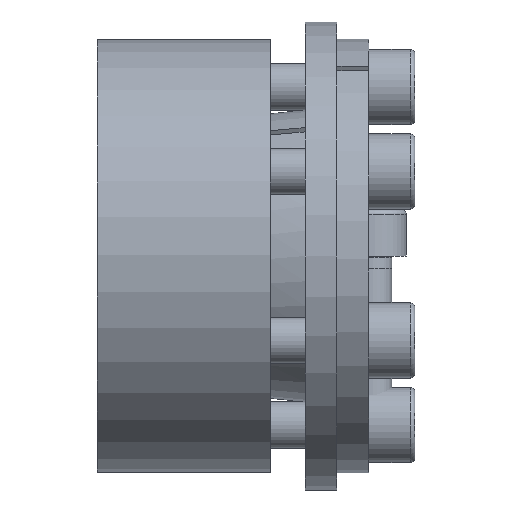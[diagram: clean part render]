
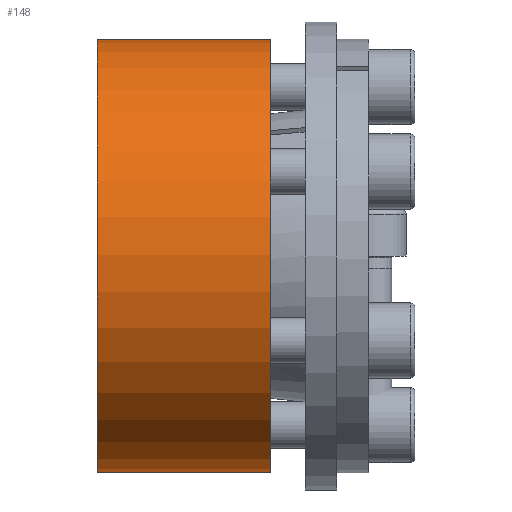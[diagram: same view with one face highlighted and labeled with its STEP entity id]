
A CAD part, left-side view. The second image highlights one B-rep face of the part: STEP entity #148.
In plain terms, the highlighted cylindrical face has radius 37.5 mm (diameter 75 mm), a partial arc.
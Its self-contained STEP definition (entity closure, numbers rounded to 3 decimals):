
#148 = ADVANCED_FACE( '', ( #320 ), #321, .T. );
#320 = FACE_OUTER_BOUND( '', #490, .T. );
#321 = CYLINDRICAL_SURFACE( '', #491, 37.5 );
#490 = EDGE_LOOP( '', ( #858, #859, #860, #861 ) );
#491 = AXIS2_PLACEMENT_3D( '', #862, #863, #864 );
#858 = ORIENTED_EDGE( '', *, *, #942, .F. );
#859 = ORIENTED_EDGE( '', *, *, #1049, .T. );
#860 = ORIENTED_EDGE( '', *, *, #1040, .T. );
#861 = ORIENTED_EDGE( '', *, *, #927, .F. );
#862 = CARTESIAN_POINT( '', ( 0., -60., 0. ) );
#863 = DIRECTION( '', ( 0., 1., 0. ) );
#864 = DIRECTION( '', ( 0., 0., -1. ) );
#927 = EDGE_CURVE( '', #1115, #1116, #1117, .F. );
#942 = EDGE_CURVE( '', #1143, #1115, #1145, .T. );
#1040 = EDGE_CURVE( '', #1292, #1116, #1293, .T. );
#1049 = EDGE_CURVE( '', #1143, #1292, #1302, .F. );
#1115 = VERTEX_POINT( '', #1452 );
#1116 = VERTEX_POINT( '', #1453 );
#1117 = LINE( '', #1454, #1455 );
#1143 = VERTEX_POINT( '', #1489 );
#1145 = CIRCLE( '', #1492, 37.5 );
#1292 = VERTEX_POINT( '', #1676 );
#1293 = CIRCLE( '', #1677, 37.5 );
#1302 = LINE( '', #1688, #1689 );
#1452 = CARTESIAN_POINT( '', ( 18.097, 17., -32.844 ) );
#1453 = CARTESIAN_POINT( '', ( 18.097, 47., -32.844 ) );
#1454 = CARTESIAN_POINT( '', ( 18.097, -60., -32.844 ) );
#1455 = VECTOR( '', #1728, 1000. );
#1489 = CARTESIAN_POINT( '', ( 19.396, 17., -32.094 ) );
#1492 = AXIS2_PLACEMENT_3D( '', #1753, #1754, #1755 );
#1676 = CARTESIAN_POINT( '', ( 19.396, 47., -32.094 ) );
#1677 = AXIS2_PLACEMENT_3D( '', #1907, #1908, #1909 );
#1688 = CARTESIAN_POINT( '', ( 19.396, -60., -32.094 ) );
#1689 = VECTOR( '', #1912, 1000. );
#1728 = DIRECTION( '', ( 0., -1., 0. ) );
#1753 = CARTESIAN_POINT( '', ( 0., 17., 0. ) );
#1754 = DIRECTION( '', ( 0., -1., 0. ) );
#1755 = DIRECTION( '', ( 0., 0., -1. ) );
#1907 = CARTESIAN_POINT( '', ( 0., 47., 0. ) );
#1908 = DIRECTION( '', ( 0., -1., 0. ) );
#1909 = DIRECTION( '', ( 0., 0., -1. ) );
#1912 = DIRECTION( '', ( 0., -1., 0. ) );
